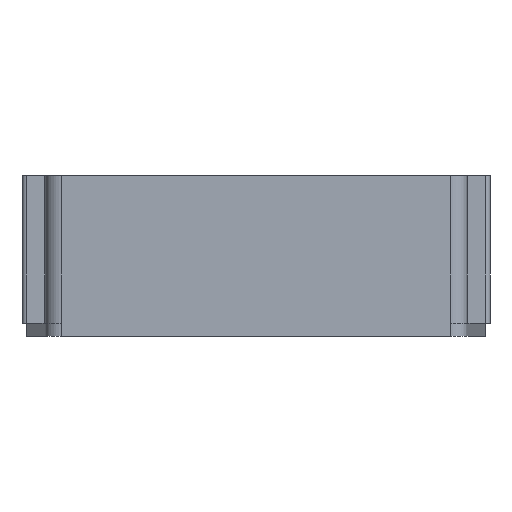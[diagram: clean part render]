
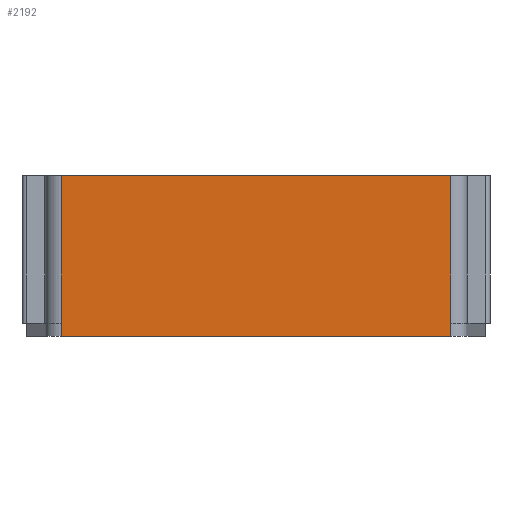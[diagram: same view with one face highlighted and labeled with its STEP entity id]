
A CAD part, front view. The second image highlights one B-rep face of the part: STEP entity #2192.
In plain terms, the highlighted planar face has unit normal (0, -1, 0).
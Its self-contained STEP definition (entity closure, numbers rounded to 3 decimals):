
#1008=CARTESIAN_POINT('',(251.777,206.329,4.5));
#1009=VERTEX_POINT('',#1008);
#1017=CARTESIAN_POINT('',(263.67,206.329,4.5));
#1018=VERTEX_POINT('',#1017);
#1019=CARTESIAN_POINT('',(263.67,206.329,4.5));
#1020=DIRECTION('',(-1.0,0.0,0.0));
#1021=VECTOR('',#1020,11.894);
#1022=LINE('',#1019,#1021);
#1023=EDGE_CURVE('',#1018,#1009,#1022,.T.);
#1230=CARTESIAN_POINT('',(251.777,206.329,0.0));
#1231=VERTEX_POINT('',#1230);
#1239=CARTESIAN_POINT('',(251.777,206.329,0.0));
#1240=DIRECTION('',(0.,0.0,1.0));
#1241=VECTOR('',#1240,4.5);
#1242=LINE('',#1239,#1241);
#1243=EDGE_CURVE('',#1231,#1009,#1242,.T.);
#1257=CARTESIAN_POINT('',(263.67,206.329,0.0));
#1258=VERTEX_POINT('',#1257);
#1273=CARTESIAN_POINT('',(263.67,206.329,0.0));
#1274=DIRECTION('',(0.0,0.0,1.0));
#1275=VECTOR('',#1274,4.5);
#1276=LINE('',#1273,#1275);
#1277=EDGE_CURVE('',#1258,#1018,#1276,.T.);
#1795=CARTESIAN_POINT('',(263.67,206.329,-0.4));
#1796=VERTEX_POINT('',#1795);
#1804=CARTESIAN_POINT('',(251.777,206.329,-0.4));
#1805=VERTEX_POINT('',#1804);
#1806=CARTESIAN_POINT('',(263.67,206.329,-0.4));
#1807=DIRECTION('',(-1.0,0.0,0.0));
#1808=VECTOR('',#1807,11.894);
#1809=LINE('',#1806,#1808);
#1810=EDGE_CURVE('',#1796,#1805,#1809,.T.);
#1970=CARTESIAN_POINT('',(263.67,206.329,-0.4));
#1971=DIRECTION('',(0.0,0.0,1.0));
#1972=VECTOR('',#1971,0.4);
#1973=LINE('',#1970,#1972);
#1974=EDGE_CURVE('',#1796,#1258,#1973,.T.);
#2168=CARTESIAN_POINT('',(251.777,206.329,-0.4));
#2169=DIRECTION('',(0.0,0.0,1.0));
#2170=VECTOR('',#2169,0.4);
#2171=LINE('',#2168,#2170);
#2172=EDGE_CURVE('',#1805,#1231,#2171,.T.);
#2179=CARTESIAN_POINT('',(257.724,206.329,-0.4));
#2180=DIRECTION('',(0.0,1.0,0.0));
#2181=DIRECTION('',(0.0,0.0,1.0));
#2182=AXIS2_PLACEMENT_3D('',#2179,#2180,#2181);
#2183=PLANE('',#2182);
#2184=ORIENTED_EDGE('',*,*,#1810,.F.);
#2185=ORIENTED_EDGE('',*,*,#1974,.T.);
#2186=ORIENTED_EDGE('',*,*,#1277,.T.);
#2187=ORIENTED_EDGE('',*,*,#1023,.T.);
#2188=ORIENTED_EDGE('',*,*,#1243,.F.);
#2189=ORIENTED_EDGE('',*,*,#2172,.F.);
#2190=EDGE_LOOP('',(#2184,#2185,#2186,#2187,#2188,#2189));
#2191=FACE_OUTER_BOUND('',#2190,.T.);
#2192=ADVANCED_FACE('',(#2191),#2183,.F.);
